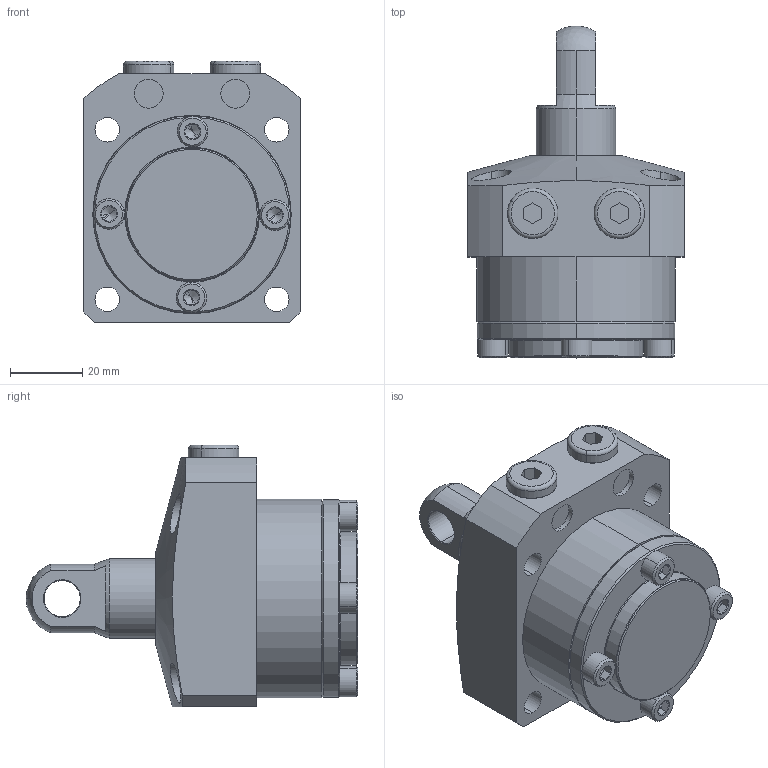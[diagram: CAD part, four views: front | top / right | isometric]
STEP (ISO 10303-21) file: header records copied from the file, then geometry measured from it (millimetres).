
FILE_DESCRIPTION (( 'STEP AP203' ), '1' );
FILE_NAME ('680550-CP-015.step', '2016-11-02T03:23:31', ( 'wxp' ), ( '' ), 'SwSTEP 2.0', 'SolidWorks 2011', '' );
FILE_SCHEMA (( 'CONFIG_CONTROL_DESIGN' ));
Length unit declared in the file: millimetre
Products named in the file (6): 680550-CP-015; 葩璃 680550-15-14^680550-CP-015; 葩璃 68055-CA-15-5^680550-CP-015; 葩璃 68055-CA-15-4^680550-CP-015; 葩璃 68055-CA-15-3^680550-CP-015; 葩璃 68055-CA-15-1^680550-CP-015
Assembly tree (9 placements, depth 2):
  680550-CP-015
    葩璃 68055-CA-15-5^680550-CP-015  x2
    葩璃 68055-CA-15-4^680550-CP-015  x4
    葩璃 68055-CA-15-3^680550-CP-015
    葩璃 680550-15-14^680550-CP-015
    葩璃 68055-CA-15-1^680550-CP-015
Bounding box: 60 x 92 x 72.5 mm (x, y, z)
Volume: 160649.2 mm3; surface area: 33288.1 mm2
Topology: 9 solids, 9 shells, 276 faces, 552 edges, 310 vertices
Faces by surface type: plane 107, cylinder 79, cone 72, torus 16, sphere 2
Entity records: 5434 total; most frequent: CARTESIAN_POINT 1165, DIRECTION 821, ORIENTED_EDGE 668, AXIS2_PLACEMENT_3D 344, EDGE_CURVE 334, VERTEX_POINT 203, EDGE_LOOP 191, CIRCLE 175
